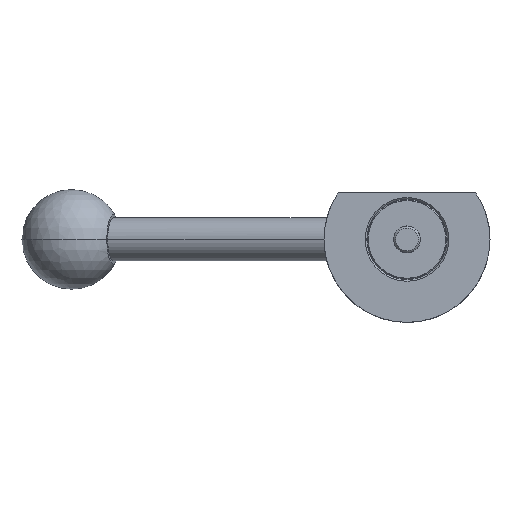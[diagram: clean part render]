
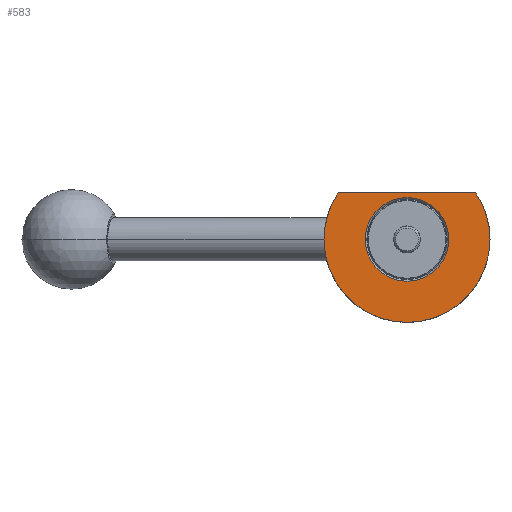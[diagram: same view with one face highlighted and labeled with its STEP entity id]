
A CAD part, front view. The second image highlights one B-rep face of the part: STEP entity #583.
In plain terms, the highlighted planar face has unit normal (0, -1, 0).
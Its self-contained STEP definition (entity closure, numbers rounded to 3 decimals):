
#31 = AXIS2_PLACEMENT_3D ( 'NONE', #986, #1980, #365 ) ;
#35 = CARTESIAN_POINT ( 'NONE',  ( 0., -12., 0. ) ) ;
#77 = EDGE_LOOP ( 'NONE', ( #911, #1213 ) ) ;
#91 = FACE_BOUND ( 'NONE', #77, .T. ) ;
#177 = CARTESIAN_POINT ( 'NONE',  ( 12.6, -12., 0. ) ) ;
#193 = CIRCLE ( 'NONE', #1108, 12.6 ) ;
#194 = EDGE_CURVE ( 'NONE', #1382, #1966, #1691, .T. ) ;
#327 = DIRECTION ( 'NONE',  ( 0., 1., 0. ) ) ;
#337 = CARTESIAN_POINT ( 'NONE',  ( -25., -12., 0. ) ) ;
#340 = CARTESIAN_POINT ( 'NONE',  ( -12.6, -12., 0. ) ) ;
#361 = DIRECTION ( 'NONE',  ( 1., 0., 0. ) ) ;
#365 = DIRECTION ( 'NONE',  ( -1., 0., 0. ) ) ;
#403 = CARTESIAN_POINT ( 'NONE',  ( -20.712, -12., 14. ) ) ;
#450 = CIRCLE ( 'NONE', #1174, 12.6 ) ;
#524 = EDGE_CURVE ( 'NONE', #1545, #1966, #1808, .T. ) ;
#538 = DIRECTION ( 'NONE',  ( -1., 0., 0. ) ) ;
#574 = ORIENTED_EDGE ( 'NONE', *, *, #194, .F. ) ;
#576 = DIRECTION ( 'NONE',  ( -1., 0., 0. ) ) ;
#579 = AXIS2_PLACEMENT_3D ( 'NONE', #1054, #1816, #576 ) ;
#583 = ADVANCED_FACE ( 'NONE', ( #91, #709 ), #670, .T. ) ;
#618 = VERTEX_POINT ( 'NONE', #1991 ) ;
#626 = EDGE_CURVE ( 'NONE', #1545, #618, #832, .T. ) ;
#670 = PLANE ( 'NONE',  #801 ) ;
#709 = FACE_OUTER_BOUND ( 'NONE', #1646, .T. ) ;
#751 = DIRECTION ( 'NONE',  ( 0., 1., 0. ) ) ;
#801 = AXIS2_PLACEMENT_3D ( 'NONE', #1625, #1142, #361 ) ;
#832 = CIRCLE ( 'NONE', #579, 25. ) ;
#841 = CARTESIAN_POINT ( 'NONE',  ( 0., -12., 0. ) ) ;
#904 = CIRCLE ( 'NONE', #31, 25. ) ;
#906 = ORIENTED_EDGE ( 'NONE', *, *, #524, .T. ) ;
#911 = ORIENTED_EDGE ( 'NONE', *, *, #1372, .T. ) ;
#930 = AXIS2_PLACEMENT_3D ( 'NONE', #841, #1025, #538 ) ;
#986 = CARTESIAN_POINT ( 'NONE',  ( 0., -12., 0. ) ) ;
#1024 = DIRECTION ( 'NONE',  ( -1., 0., 0. ) ) ;
#1025 = DIRECTION ( 'NONE',  ( 0., 1., 0. ) ) ;
#1054 = CARTESIAN_POINT ( 'NONE',  ( 0., -12., 0. ) ) ;
#1108 = AXIS2_PLACEMENT_3D ( 'NONE', #1186, #751, #1024 ) ;
#1142 = DIRECTION ( 'NONE',  ( 0., -1., 0. ) ) ;
#1170 = VECTOR ( 'NONE', #1931, 1000. ) ;
#1174 = AXIS2_PLACEMENT_3D ( 'NONE', #35, #327, #1424 ) ;
#1186 = CARTESIAN_POINT ( 'NONE',  ( 0., -12., 0. ) ) ;
#1213 = ORIENTED_EDGE ( 'NONE', *, *, #1518, .T. ) ;
#1335 = VERTEX_POINT ( 'NONE', #177 ) ;
#1372 = EDGE_CURVE ( 'NONE', #1335, #1767, #450, .T. ) ;
#1382 = VERTEX_POINT ( 'NONE', #337 ) ;
#1424 = DIRECTION ( 'NONE',  ( -1., 0., 0. ) ) ;
#1432 = EDGE_CURVE ( 'NONE', #618, #1382, #904, .T. ) ;
#1518 = EDGE_CURVE ( 'NONE', #1767, #1335, #193, .T. ) ;
#1545 = VERTEX_POINT ( 'NONE', #1809 ) ;
#1625 = CARTESIAN_POINT ( 'NONE',  ( -12.6, -12., 0. ) ) ;
#1646 = EDGE_LOOP ( 'NONE', ( #1804, #906, #574, #1772 ) ) ;
#1691 = CIRCLE ( 'NONE', #930, 25. ) ;
#1767 = VERTEX_POINT ( 'NONE', #340 ) ;
#1772 = ORIENTED_EDGE ( 'NONE', *, *, #1432, .F. ) ;
#1804 = ORIENTED_EDGE ( 'NONE', *, *, #626, .F. ) ;
#1808 = LINE ( 'NONE', #1949, #1170 ) ;
#1809 = CARTESIAN_POINT ( 'NONE',  ( 20.712, -12., 14. ) ) ;
#1816 = DIRECTION ( 'NONE',  ( 0., 1., 0. ) ) ;
#1931 = DIRECTION ( 'NONE',  ( -1., 0., 0. ) ) ;
#1949 = CARTESIAN_POINT ( 'NONE',  ( -12.6, -12., 14. ) ) ;
#1966 = VERTEX_POINT ( 'NONE', #403 ) ;
#1980 = DIRECTION ( 'NONE',  ( 0., 1., 0. ) ) ;
#1991 = CARTESIAN_POINT ( 'NONE',  ( 25., -12., 0. ) ) ;
